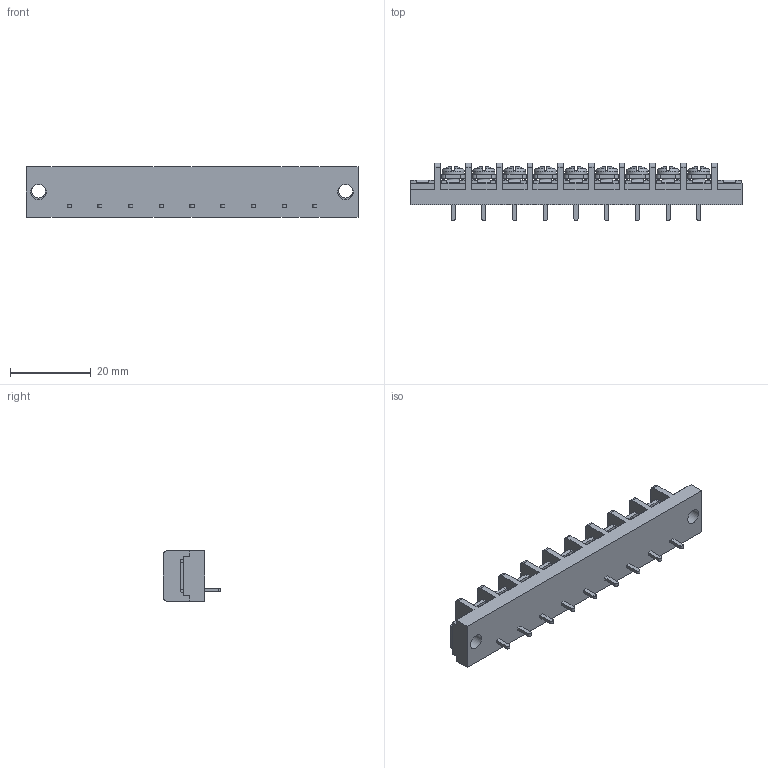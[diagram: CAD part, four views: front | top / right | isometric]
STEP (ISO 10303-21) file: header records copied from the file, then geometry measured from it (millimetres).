
FILE_DESCRIPTION(/* description */ ('Alibre Inc.'),/* implementation_level */ '2;1');
FILE_NAME(/* name */ 'export0',/* time_stamp */ '2015-10-26T17:34:50+09:00',/* author */ (''),/* organization */ (''),/* preprocessor_version */ 'ST-DEVELOPER v14',/* originating_system */ 'Alibre',/* authorisation */ '');
FILE_SCHEMA (('CONFIG_CONTROL_DESIGN'));
Length unit declared in the file: centimetre
Products named in the file (1): ID_1
Bounding box: 82.4 x 14.3 x 12.5 mm (x, y, z)
Volume: 7064.5 mm3; surface area: 6373.9 mm2
Topology: 1 solids, 17 shells, 1318 faces, 3593 edges, 2367 vertices
Faces by surface type: plane 1024, cylinder 118, bspline 104, cone 36, torus 18, sphere 18
Full cylindrical faces by diameter (mm): 3 x9, 3.5 x2, 3.8 x2, 5.5 x9
Entity records: 39428 total; most frequent: CARTESIAN_POINT 8728, ORIENTED_EDGE 7026, DIRECTION 4853, EDGE_CURVE 3513, VECTOR 2516, LINE 2516, VERTEX_POINT 2327, AXIS2_PLACEMENT_3D 1629
